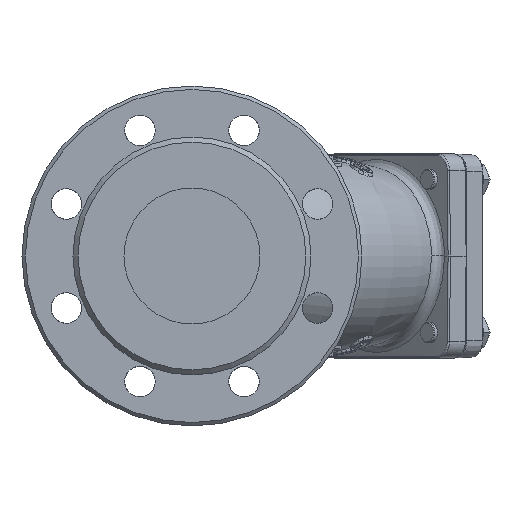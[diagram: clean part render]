
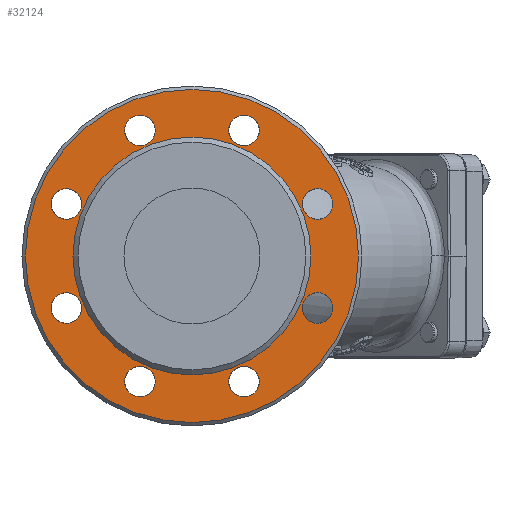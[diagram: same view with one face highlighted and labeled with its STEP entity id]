
A CAD part, left-side view. The second image highlights one B-rep face of the part: STEP entity #32124.
In plain terms, the highlighted planar face has unit normal (-1, 0, 0).
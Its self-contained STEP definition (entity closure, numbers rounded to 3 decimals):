
#628 = EDGE_CURVE ( 'NONE', #32916, #32916, #11272, .T. ) ;
#870 = EDGE_CURVE ( 'NONE', #56293, #56293, #8942, .T. ) ;
#1063 = VERTEX_POINT ( 'NONE', #41415 ) ;
#1386 = AXIS2_PLACEMENT_3D ( 'NONE', #17054, #27767, #33318 ) ;
#1796 = DIRECTION ( 'NONE',  ( 0., 0., 1. ) ) ;
#2093 = CIRCLE ( 'NONE', #48292, 9. ) ;
#3342 = AXIS2_PLACEMENT_3D ( 'NONE', #70351, #12573, #1796 ) ;
#4235 = AXIS2_PLACEMENT_3D ( 'NONE', #30877, #19783, #69118 ) ;
#4595 = PLANE ( 'NONE',  #23237 ) ;
#4967 = FACE_OUTER_BOUND ( 'NONE', #47025, .T. ) ;
#5921 = EDGE_CURVE ( 'NONE', #45551, #45551, #17784, .T. ) ;
#6123 = ORIENTED_EDGE ( 'NONE', *, *, #23004, .F. ) ;
#7737 = CARTESIAN_POINT ( 'NONE',  ( -126.279, 2.869, -64.91 ) ) ;
#8368 = EDGE_CURVE ( 'NONE', #39248, #39248, #36874, .T. ) ;
#8896 = CARTESIAN_POINT ( 'NONE',  ( -126.279, -40.426, -30.615 ) ) ;
#8942 = CIRCLE ( 'NONE', #4235, 9. ) ;
#9211 = CIRCLE ( 'NONE', #18643, 9. ) ;
#10681 = EDGE_LOOP ( 'NONE', ( #67805 ) ) ;
#10698 = EDGE_LOOP ( 'NONE', ( #6123 ) ) ;
#11021 = CARTESIAN_POINT ( 'NONE',  ( -126.279, 107.394, -30.615 ) ) ;
#11272 = CIRCLE ( 'NONE', #30147, 9. ) ;
#12119 = CARTESIAN_POINT ( 'NONE',  ( -126.279, -40.426, 30.615 ) ) ;
#12330 = EDGE_LOOP ( 'NONE', ( #13513 ) ) ;
#12573 = DIRECTION ( 'NONE',  ( -1., 0., 0. ) ) ;
#12851 = DIRECTION ( 'NONE',  ( 0., 0., 1. ) ) ;
#13513 = ORIENTED_EDGE ( 'NONE', *, *, #5921, .F. ) ;
#14025 = CIRCLE ( 'NONE', #3342, 98. ) ;
#15685 = ORIENTED_EDGE ( 'NONE', *, *, #39646, .F. ) ;
#17054 = CARTESIAN_POINT ( 'NONE',  ( -126.279, 33.484, 0. ) ) ;
#17784 = CIRCLE ( 'NONE', #40245, 9. ) ;
#18127 = CIRCLE ( 'NONE', #64311, 9. ) ;
#18643 = AXIS2_PLACEMENT_3D ( 'NONE', #61285, #26153, #70295 ) ;
#19783 = DIRECTION ( 'NONE',  ( -1., 0., 0. ) ) ;
#21820 = CARTESIAN_POINT ( 'NONE',  ( -126.279, 33.484, 70. ) ) ;
#23004 = EDGE_CURVE ( 'NONE', #36229, #36229, #63923, .T. ) ;
#23237 = AXIS2_PLACEMENT_3D ( 'NONE', #33063, #39415, #38308 ) ;
#23289 = CARTESIAN_POINT ( 'NONE',  ( -126.279, -40.426, 39.615 ) ) ;
#23641 = CARTESIAN_POINT ( 'NONE',  ( -126.279, 64.099, -64.91 ) ) ;
#25199 = ORIENTED_EDGE ( 'NONE', *, *, #51249, .F. ) ;
#25868 = EDGE_LOOP ( 'NONE', ( #39791 ) ) ;
#26153 = DIRECTION ( 'NONE',  ( -1., 0., 0. ) ) ;
#26633 = DIRECTION ( 'NONE',  ( 0., 0., 1. ) ) ;
#27117 = EDGE_LOOP ( 'NONE', ( #25199 ) ) ;
#27407 = EDGE_CURVE ( 'NONE', #35865, #35865, #18127, .T. ) ;
#27767 = DIRECTION ( 'NONE',  ( -1., 0., 0. ) ) ;
#28023 = DIRECTION ( 'NONE',  ( 0., 0., 1. ) ) ;
#29154 = EDGE_LOOP ( 'NONE', ( #68533 ) ) ;
#30147 = AXIS2_PLACEMENT_3D ( 'NONE', #12119, #58048, #12851 ) ;
#30253 = DIRECTION ( 'NONE',  ( -1., 0., 0. ) ) ;
#30877 = CARTESIAN_POINT ( 'NONE',  ( -126.279, 107.394, 30.615 ) ) ;
#30951 = EDGE_LOOP ( 'NONE', ( #70828 ) ) ;
#31945 = AXIS2_PLACEMENT_3D ( 'NONE', #53180, #46917, #35370 ) ;
#32124 = ADVANCED_FACE ( 'NONE', ( #45345, #73157, #72791, #33442, #50137, #44237, #55720, #33809, #56459, #4967 ), #4595, .T. ) ;
#32916 = VERTEX_POINT ( 'NONE', #23289 ) ;
#33063 = CARTESIAN_POINT ( 'NONE',  ( -126.279, 133.484, 0. ) ) ;
#33188 = CARTESIAN_POINT ( 'NONE',  ( -126.279, 33.484, 98. ) ) ;
#33318 = DIRECTION ( 'NONE',  ( 0., 0., 1. ) ) ;
#33380 = EDGE_CURVE ( 'NONE', #1063, #1063, #2093, .T. ) ;
#33442 = FACE_BOUND ( 'NONE', #65227, .T. ) ;
#33809 = FACE_BOUND ( 'NONE', #10681, .T. ) ;
#35370 = DIRECTION ( 'NONE',  ( 0., 0., 1. ) ) ;
#35865 = VERTEX_POINT ( 'NONE', #47374 ) ;
#36229 = VERTEX_POINT ( 'NONE', #7737 ) ;
#36656 = DIRECTION ( 'NONE',  ( -1., 0., 0. ) ) ;
#36874 = CIRCLE ( 'NONE', #1386, 70. ) ;
#38007 = ORIENTED_EDGE ( 'NONE', *, *, #870, .F. ) ;
#38308 = DIRECTION ( 'NONE',  ( 0., 0., 1. ) ) ;
#39152 = DIRECTION ( 'NONE',  ( -1., 0., 0. ) ) ;
#39248 = VERTEX_POINT ( 'NONE', #21820 ) ;
#39415 = DIRECTION ( 'NONE',  ( -1., 0., 0. ) ) ;
#39646 = EDGE_CURVE ( 'NONE', #41778, #41778, #9211, .T. ) ;
#39791 = ORIENTED_EDGE ( 'NONE', *, *, #8368, .F. ) ;
#40245 = AXIS2_PLACEMENT_3D ( 'NONE', #8896, #36656, #26633 ) ;
#41415 = CARTESIAN_POINT ( 'NONE',  ( -126.279, 2.869, 82.91 ) ) ;
#41754 = DIRECTION ( 'NONE',  ( 0., 0., 1. ) ) ;
#41778 = VERTEX_POINT ( 'NONE', #23641 ) ;
#42150 = VERTEX_POINT ( 'NONE', #33188 ) ;
#44237 = FACE_BOUND ( 'NONE', #12330, .T. ) ;
#45345 = FACE_BOUND ( 'NONE', #25868, .T. ) ;
#45551 = VERTEX_POINT ( 'NONE', #66691 ) ;
#46917 = DIRECTION ( 'NONE',  ( -1., 0., 0. ) ) ;
#47025 = EDGE_LOOP ( 'NONE', ( #64228 ) ) ;
#47374 = CARTESIAN_POINT ( 'NONE',  ( -126.279, 64.099, 82.91 ) ) ;
#47573 = AXIS2_PLACEMENT_3D ( 'NONE', #11021, #39152, #28023 ) ;
#47756 = CARTESIAN_POINT ( 'NONE',  ( -126.279, 107.394, -21.615 ) ) ;
#48103 = DIRECTION ( 'NONE',  ( -1., 0., 0. ) ) ;
#48292 = AXIS2_PLACEMENT_3D ( 'NONE', #64776, #48103, #70712 ) ;
#49919 = CIRCLE ( 'NONE', #47573, 9. ) ;
#50137 = FACE_BOUND ( 'NONE', #10698, .T. ) ;
#50309 = EDGE_LOOP ( 'NONE', ( #38007 ) ) ;
#51249 = EDGE_CURVE ( 'NONE', #70347, #70347, #49919, .T. ) ;
#53180 = CARTESIAN_POINT ( 'NONE',  ( -126.279, 2.869, -73.91 ) ) ;
#55561 = CARTESIAN_POINT ( 'NONE',  ( -126.279, 107.394, 39.615 ) ) ;
#55720 = FACE_BOUND ( 'NONE', #30951, .T. ) ;
#56293 = VERTEX_POINT ( 'NONE', #55561 ) ;
#56459 = FACE_BOUND ( 'NONE', #29154, .T. ) ;
#58048 = DIRECTION ( 'NONE',  ( -1., 0., 0. ) ) ;
#59163 = EDGE_CURVE ( 'NONE', #42150, #42150, #14025, .T. ) ;
#61285 = CARTESIAN_POINT ( 'NONE',  ( -126.279, 64.099, -73.91 ) ) ;
#63923 = CIRCLE ( 'NONE', #31945, 9. ) ;
#64228 = ORIENTED_EDGE ( 'NONE', *, *, #59163, .T. ) ;
#64311 = AXIS2_PLACEMENT_3D ( 'NONE', #65131, #30253, #41754 ) ;
#64776 = CARTESIAN_POINT ( 'NONE',  ( -126.279, 2.869, 73.91 ) ) ;
#65131 = CARTESIAN_POINT ( 'NONE',  ( -126.279, 64.099, 73.91 ) ) ;
#65227 = EDGE_LOOP ( 'NONE', ( #15685 ) ) ;
#66691 = CARTESIAN_POINT ( 'NONE',  ( -126.279, -40.426, -21.615 ) ) ;
#67805 = ORIENTED_EDGE ( 'NONE', *, *, #33380, .F. ) ;
#68533 = ORIENTED_EDGE ( 'NONE', *, *, #27407, .F. ) ;
#69118 = DIRECTION ( 'NONE',  ( 0., 0., 1. ) ) ;
#70295 = DIRECTION ( 'NONE',  ( 0., 0., 1. ) ) ;
#70347 = VERTEX_POINT ( 'NONE', #47756 ) ;
#70351 = CARTESIAN_POINT ( 'NONE',  ( -126.279, 33.484, 0. ) ) ;
#70712 = DIRECTION ( 'NONE',  ( 0., 0., 1. ) ) ;
#70828 = ORIENTED_EDGE ( 'NONE', *, *, #628, .F. ) ;
#72791 = FACE_BOUND ( 'NONE', #27117, .T. ) ;
#73157 = FACE_BOUND ( 'NONE', #50309, .T. ) ;
